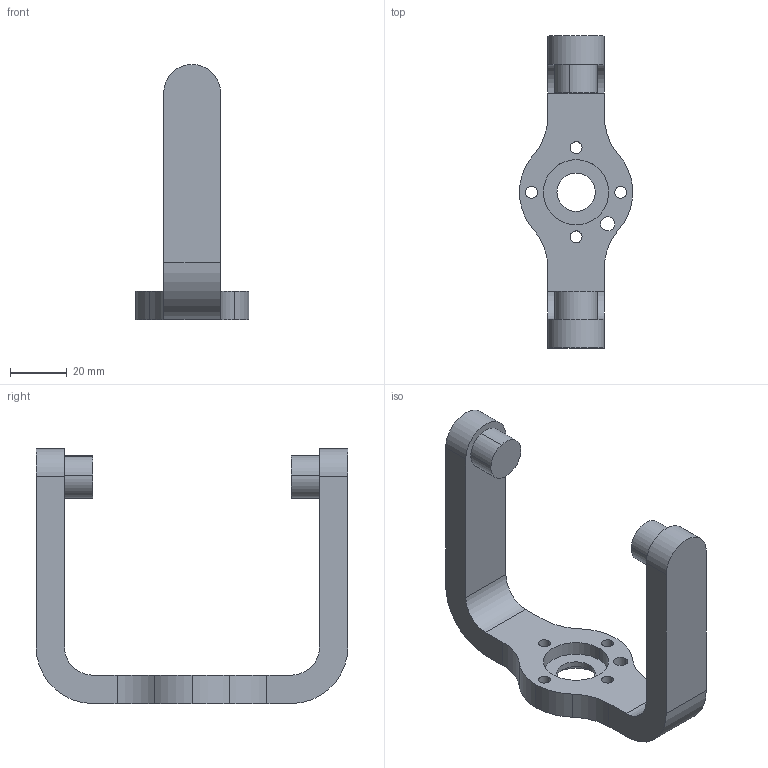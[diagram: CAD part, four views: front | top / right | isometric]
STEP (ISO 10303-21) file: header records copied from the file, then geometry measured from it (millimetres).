
FILE_DESCRIPTION (( 'STEP AP214' ), '1' );
FILE_NAME ('IRB365_1.5_1300_OmniCore_rev00_SWING_CAD.step', '2025-09-09T11:52:45', ( '' ), ( '' ), 'SwSTEP 2.0', 'SolidWorks 2024', '' );
FILE_SCHEMA (( 'AUTOMOTIVE_DESIGN' ));
Length unit declared in the file: millimetre
Products named in the file (1): IRB365_1.5_1300_OmniCore_rev00_SWING_CAD
Bounding box: 39.94 x 110 x 90 mm (x, y, z)
Volume: 55335.5 mm3; surface area: 18466 mm2
Topology: 1 solids, 1 shells, 48 faces, 126 edges, 84 vertices
Faces by surface type: cylinder 34, plane 14
Entity records: 2093 total; most frequent: DIRECTION 292, CARTESIAN_POINT 259, ORIENTED_EDGE 252, EDGE_CURVE 126, AXIS2_PLACEMENT_3D 117, VERTEX_POINT 84, CIRCLE 68, EDGE_LOOP 64
